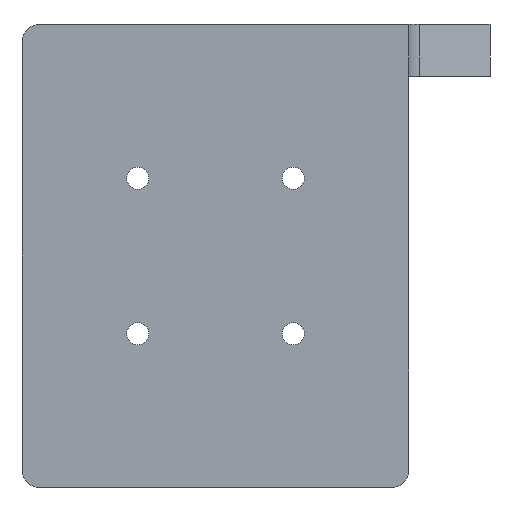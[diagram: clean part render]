
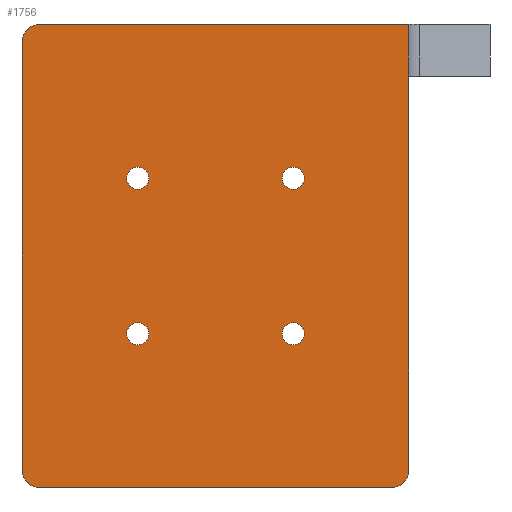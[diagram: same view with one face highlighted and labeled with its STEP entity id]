
A CAD part, front view. The second image highlights one B-rep face of the part: STEP entity #1756.
In plain terms, the highlighted planar face has unit normal (0, -1, 0).
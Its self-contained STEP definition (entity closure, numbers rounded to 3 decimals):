
#29=FACE_BOUND('',#345,.T.);
#30=FACE_BOUND('',#346,.T.);
#31=FACE_BOUND('',#347,.T.);
#32=FACE_BOUND('',#348,.T.);
#134=CIRCLE('',#1891,2.5);
#137=CIRCLE('',#1899,2.5);
#138=CIRCLE('',#1900,2.5);
#139=CIRCLE('',#1901,1.6);
#140=CIRCLE('',#1902,1.6);
#141=CIRCLE('',#1903,1.6);
#142=CIRCLE('',#1904,1.6);
#229=FACE_OUTER_BOUND('',#344,.T.);
#344=EDGE_LOOP('',(#1372,#1373,#1374,#1375,#1376,#1377,#1378,#1379));
#345=EDGE_LOOP('',(#1380));
#346=EDGE_LOOP('',(#1381));
#347=EDGE_LOOP('',(#1382));
#348=EDGE_LOOP('',(#1383));
#523=LINE('',#2922,#680);
#524=LINE('',#2926,#681);
#525=LINE('',#2929,#682);
#526=LINE('',#2931,#683);
#527=LINE('',#2932,#684);
#680=VECTOR('',#2264,10.);
#681=VECTOR('',#2267,10.);
#682=VECTOR('',#2270,10.);
#683=VECTOR('',#2271,10.);
#684=VECTOR('',#2272,10.);
#769=VERTEX_POINT('',#2610);
#836=VERTEX_POINT('',#2897);
#837=VERTEX_POINT('',#2898);
#844=VERTEX_POINT('',#2921);
#845=VERTEX_POINT('',#2923);
#846=VERTEX_POINT('',#2925);
#847=VERTEX_POINT('',#2927);
#848=VERTEX_POINT('',#2930);
#849=VERTEX_POINT('',#2933);
#850=VERTEX_POINT('',#2935);
#851=VERTEX_POINT('',#2937);
#852=VERTEX_POINT('',#2939);
#1031=EDGE_CURVE('',#836,#837,#134,.T.);
#1043=EDGE_CURVE('',#844,#836,#523,.T.);
#1044=EDGE_CURVE('',#845,#844,#137,.T.);
#1045=EDGE_CURVE('',#846,#845,#524,.T.);
#1046=EDGE_CURVE('',#847,#846,#138,.T.);
#1047=EDGE_CURVE('',#769,#847,#525,.T.);
#1048=EDGE_CURVE('',#848,#769,#526,.T.);
#1049=EDGE_CURVE('',#837,#848,#527,.T.);
#1050=EDGE_CURVE('',#849,#849,#139,.T.);
#1051=EDGE_CURVE('',#850,#850,#140,.T.);
#1052=EDGE_CURVE('',#851,#851,#141,.T.);
#1053=EDGE_CURVE('',#852,#852,#142,.T.);
#1372=ORIENTED_EDGE('',*,*,#1031,.F.);
#1373=ORIENTED_EDGE('',*,*,#1043,.F.);
#1374=ORIENTED_EDGE('',*,*,#1044,.F.);
#1375=ORIENTED_EDGE('',*,*,#1045,.F.);
#1376=ORIENTED_EDGE('',*,*,#1046,.F.);
#1377=ORIENTED_EDGE('',*,*,#1047,.F.);
#1378=ORIENTED_EDGE('',*,*,#1048,.F.);
#1379=ORIENTED_EDGE('',*,*,#1049,.F.);
#1380=ORIENTED_EDGE('',*,*,#1050,.F.);
#1381=ORIENTED_EDGE('',*,*,#1051,.F.);
#1382=ORIENTED_EDGE('',*,*,#1052,.F.);
#1383=ORIENTED_EDGE('',*,*,#1053,.F.);
#1683=PLANE('',#1898);
#1756=ADVANCED_FACE('',(#229,#29,#30,#31,#32),#1683,.F.);
#1891=AXIS2_PLACEMENT_3D('',#2899,#2240,#2241);
#1898=AXIS2_PLACEMENT_3D('',#2920,#2262,#2263);
#1899=AXIS2_PLACEMENT_3D('',#2924,#2265,#2266);
#1900=AXIS2_PLACEMENT_3D('',#2928,#2268,#2269);
#1901=AXIS2_PLACEMENT_3D('',#2934,#2273,#2274);
#1902=AXIS2_PLACEMENT_3D('',#2936,#2275,#2276);
#1903=AXIS2_PLACEMENT_3D('',#2938,#2277,#2278);
#1904=AXIS2_PLACEMENT_3D('',#2940,#2279,#2280);
#2240=DIRECTION('center_axis',(0.,1.,0.));
#2241=DIRECTION('ref_axis',(-0.707,0.,0.707));
#2262=DIRECTION('center_axis',(0.,1.,0.));
#2263=DIRECTION('ref_axis',(1.,0.,0.));
#2264=DIRECTION('',(0.,0.,1.));
#2265=DIRECTION('center_axis',(0.,1.,0.));
#2266=DIRECTION('ref_axis',(-0.707,0.,-0.707));
#2267=DIRECTION('',(-1.,0.,0.));
#2268=DIRECTION('center_axis',(0.,1.,0.));
#2269=DIRECTION('ref_axis',(0.707,0.,-0.707));
#2270=DIRECTION('',(0.,0.,-1.));
#2271=DIRECTION('',(0.,0.,-1.));
#2272=DIRECTION('',(1.,0.,0.));
#2273=DIRECTION('center_axis',(0.,-1.,0.));
#2274=DIRECTION('ref_axis',(1.,0.,0.));
#2275=DIRECTION('center_axis',(0.,-1.,0.));
#2276=DIRECTION('ref_axis',(1.,0.,0.));
#2277=DIRECTION('center_axis',(0.,-1.,0.));
#2278=DIRECTION('ref_axis',(1.,0.,0.));
#2279=DIRECTION('center_axis',(0.,-1.,0.));
#2280=DIRECTION('ref_axis',(1.,0.,0.));
#2610=CARTESIAN_POINT('',(28.,0.,26.));
#2897=CARTESIAN_POINT('',(-28.,0.,31.));
#2898=CARTESIAN_POINT('',(-25.5,0.,33.5));
#2899=CARTESIAN_POINT('Origin',(-25.5,0.,31.));
#2920=CARTESIAN_POINT('Origin',(-22.5,0.,0.));
#2921=CARTESIAN_POINT('',(-28.,0.,-31.));
#2922=CARTESIAN_POINT('',(-28.,0.,-33.5));
#2923=CARTESIAN_POINT('',(-25.5,0.,-33.5));
#2924=CARTESIAN_POINT('Origin',(-25.5,0.,-31.));
#2925=CARTESIAN_POINT('',(25.5,0.,-33.5));
#2926=CARTESIAN_POINT('',(28.,0.,-33.5));
#2927=CARTESIAN_POINT('',(28.,0.,-31.));
#2928=CARTESIAN_POINT('Origin',(25.5,0.,-31.));
#2929=CARTESIAN_POINT('',(28.,0.,33.5));
#2930=CARTESIAN_POINT('',(28.,0.,33.5));
#2931=CARTESIAN_POINT('',(28.,0.,33.5));
#2932=CARTESIAN_POINT('',(-28.,0.,33.5));
#2933=CARTESIAN_POINT('',(9.65,0.,-11.25));
#2934=CARTESIAN_POINT('Origin',(11.25,0.,-11.25));
#2935=CARTESIAN_POINT('',(-12.85,0.,-11.25));
#2936=CARTESIAN_POINT('Origin',(-11.25,0.,-11.25));
#2937=CARTESIAN_POINT('',(9.65,0.,11.25));
#2938=CARTESIAN_POINT('Origin',(11.25,0.,11.25));
#2939=CARTESIAN_POINT('',(-12.85,0.,11.25));
#2940=CARTESIAN_POINT('Origin',(-11.25,0.,11.25));
